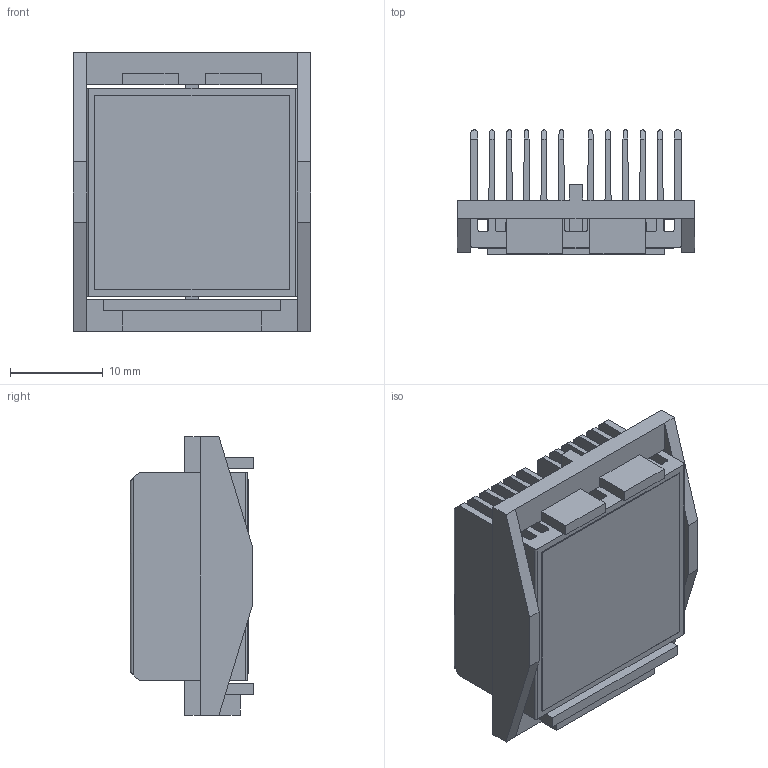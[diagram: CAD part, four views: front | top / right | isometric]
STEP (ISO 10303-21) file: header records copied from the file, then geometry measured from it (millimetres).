
FILE_DESCRIPTION (( 'STEP AP214' ), '1' );
FILE_NAME ('INL23001-13-1.7O.STEP', '2023-02-21T17:22:44', ( '' ), ( '' ), 'SwSTEP 2.0', 'SolidWorks 2020', '' );
FILE_SCHEMA (( 'AUTOMOTIVE_DESIGN' ));
Length unit declared in the file: millimetre
Products named in the file (1): INL23001-13-1.7O
Bounding box: 25.7 x 13.4 x 30.1 mm (x, y, z)
Volume: 3810.6 mm3; surface area: 9631.4 mm2
Topology: 3 solids, 3 shells, 152 faces, 440 edges, 292 vertices
Faces by surface type: plane 116, cylinder 36
Entity records: 6668 total; most frequent: CARTESIAN_POINT 957, ORIENTED_EDGE 880, DIRECTION 770, EDGE_CURVE 440, VECTOR 368, LINE 368, VERTEX_POINT 292, AXIS2_PLACEMENT_3D 201
